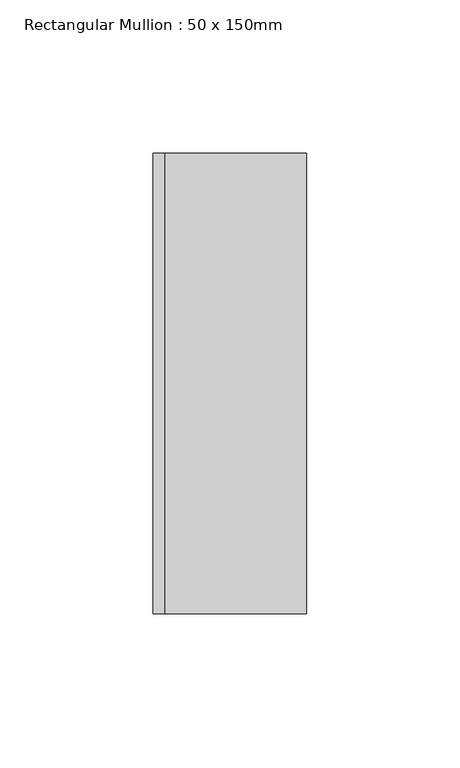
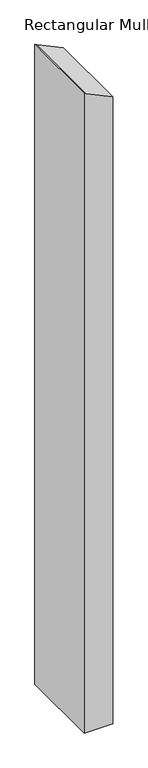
"""IFC4 building model written with IfcOpenShell, lengths in millimetres: member geometry, Rectangular Mullion : 50 x 150mm."""

import ifcopenshell
import ifcopenshell.guid

model = None  # the IFC model being written
_history = None  # IfcOwnerHistory: only IFC2X3 demands one
_inside = {}  # id of a spatial element -> (the spatial element, [elements in it])
_under = {}  # id of a project, library or spatial element -> (it, [spatial elements below it])
_declared = {}  # id of a project -> (the project, [libraries it declares])
_typed = {}  # id of a type object -> (the type object, [elements of that type])
_made_of = {}  # id of a material, layer set ... -> (it, [elements and type objects made of it])


def new_model(schema):
    """Start an empty IFC model of exactly this schema.

    Asked for "IFC4X3", IfcOpenShell would pick the latest addendum, in which some entities
    have other attributes; the version numbers below select the first issue.
    IFC2X3 requires an IfcOwnerHistory on every rooted entity: one is made here for all.
    """
    global model, _history
    if schema == "IFC4X3":
        model = ifcopenshell.file(schema_version=(4, 3, 0, 0))
    else:
        model = ifcopenshell.file(schema=schema)
    _inside.clear()
    _under.clear()
    _declared.clear()
    _typed.clear()
    _made_of.clear()
    _history = None
    if model.schema == "IFC2X3":
        org = make("IfcOrganization", Name="unknown")
        user = make(
            "IfcPersonAndOrganization",
            ThePerson=make("IfcPerson", FamilyName="unknown"),
            TheOrganization=org,
        )
        app = make(
            "IfcApplication",
            ApplicationDeveloper=org,
            Version="unknown",
            ApplicationFullName="unknown",
            ApplicationIdentifier="unknown",
        )
        _history = make(
            "IfcOwnerHistory",
            OwningUser=user,
            OwningApplication=app,
            ChangeAction="ADDED",
            CreationDate=0,
        )
    return model


def make(cls, **values):
    """One entity of the class cls with the attributes given. An attribute that is None is left unset."""
    return model.create_entity(
        cls, **{name: value for name, value in values.items() if value is not None}
    )


def rooted(cls, **values):
    """An entity with a GlobalId (a new one), such as an element, a storey or a relation."""
    return make(cls, GlobalId=ifcopenshell.guid.new(), OwnerHistory=_history, **values)


def si_unit(unit_type, name, prefix=None):
    """IfcSIUnit, for example si_unit("LENGTHUNIT", "METRE", prefix="MILLI")."""
    return make("IfcSIUnit", UnitType=unit_type, Prefix=prefix, Name=name)


def assignment(units):
    """IfcUnitAssignment: the units of a project."""
    return None if units is None else make("IfcUnitAssignment", Units=units)


def point(xyz):
    """IfcCartesianPoint."""
    return None if xyz is None else make("IfcCartesianPoint", Coordinates=xyz)


def direction(xyz):
    """IfcDirection."""
    return None if xyz is None else make("IfcDirection", DirectionRatios=xyz)


def frame(location, z_axis=None, x_axis=None):
    """IfcAxis2Placement3D, a coordinate frame: its origin and axes. An axis left out is left unset."""
    return make(
        "IfcAxis2Placement3D",
        Location=point(location),
        Axis=direction(z_axis),
        RefDirection=direction(x_axis),
    )


def origin():
    """The frame at (0, 0, 0) with its axes left unset."""
    return frame((0.0, 0.0, 0.0))


def place(relative_to, where):
    """IfcLocalPlacement: puts the frame where relative to a parent placement (None: the world)."""
    return make(
        "IfcLocalPlacement", PlacementRelTo=relative_to, RelativePlacement=where
    )


def context(
    kind, dimensions, precision=None, world=None, true_north=None, identifier=None
):
    """IfcGeometricRepresentationContext, for example the 3D "Model" context."""
    return make(
        "IfcGeometricRepresentationContext",
        ContextIdentifier=identifier,
        ContextType=kind,
        CoordinateSpaceDimension=dimensions,
        Precision=precision,
        WorldCoordinateSystem=world,
        TrueNorth=true_north,
    )


def project(units=None, contexts=None):
    """IfcProject with its units and contexts."""
    return rooted(
        "IfcProject",
        Name="project",
        RepresentationContexts=contexts,
        UnitsInContext=assignment(units),
    )


def spatial(cls, under=None, at=None, **own):
    """A site, building, storey or space (cls), placed at a placement, below another one or the project."""
    s = rooted(cls, ObjectPlacement=at, **own)
    if under is not None:
        _under.setdefault(under.id(), (under, []))[1].append(s)
    return s


def polyline(points):
    """IfcPolyline through the points."""
    return make("IfcPolyline", Points=[point(p) for p in points])


def outline(outer, holes=None, kind="AREA"):
    """IfcArbitraryClosedProfileDef: a profile drawn as a closed curve; with holes, ...WithVoids."""
    if holes is None:
        return make("IfcArbitraryClosedProfileDef", ProfileType=kind, OuterCurve=outer)
    return make(
        "IfcArbitraryProfileDefWithVoids",
        ProfileType=kind,
        OuterCurve=outer,
        InnerCurves=holes,
    )


def extrude(swept, where, along, depth):
    """IfcExtrudedAreaSolid: the profile swept, set in the frame where, extruded along a direction by depth."""
    return make(
        "IfcExtrudedAreaSolid",
        SweptArea=swept,
        Position=where,
        ExtrudedDirection=direction(along),
        Depth=depth,
    )


def shape(context_of_items, identifier, shape_type, items):
    """IfcShapeRepresentation: the items that make up one representation, for example the "Body"."""
    return make(
        "IfcShapeRepresentation",
        ContextOfItems=context_of_items,
        RepresentationIdentifier=identifier,
        RepresentationType=shape_type,
        Items=items,
    )


def source(mapping_origin, context_of_items, identifier, shape_type, items):
    """IfcRepresentationMap: a shape defined once, which mapped items show again and again."""
    return make(
        "IfcRepresentationMap",
        MappingOrigin=mapping_origin,
        MappedRepresentation=shape(context_of_items, identifier, shape_type, items),
    )


def transform(
    local_origin,
    x_axis=None,
    y_axis=None,
    z_axis=None,
    scale=None,
    scale2=None,
    scale3=None,
    uniform=True,
):
    """IfcCartesianTransformationOperator3D, or its non-uniform kind. x_axis, y_axis, z_axis: its Axis1, 2, 3."""
    if uniform:
        return make(
            "IfcCartesianTransformationOperator3D",
            Axis1=direction(x_axis),
            Axis2=direction(y_axis),
            LocalOrigin=point(local_origin),
            Scale=scale,
            Axis3=direction(z_axis),
        )
    return make(
        "IfcCartesianTransformationOperator3DnonUniform",
        Axis1=direction(x_axis),
        Axis2=direction(y_axis),
        LocalOrigin=point(local_origin),
        Scale=scale,
        Axis3=direction(z_axis),
        Scale2=scale2,
        Scale3=scale3,
    )


def mapped(mapping_source, mapping_target):
    """IfcMappedItem: shows the shape of a source again, moved by a transform."""
    return make(
        "IfcMappedItem", MappingSource=mapping_source, MappingTarget=mapping_target
    )


def made_of(thing, what):
    """Note that an element or type object is made of a material, layer set ...; save() writes the relation."""
    if what is not None:
        _made_of.setdefault(what.id(), (what, []))[1].append(thing)
    return thing


def element(
    cls,
    number,
    at=None,
    inside=None,
    cuts=None,
    type_object=None,
    material=None,
    context=None,
    identifier="Body",
    shape_type=None,
    held_by="IfcProductDefinitionShape",
    body=None,
    shapes=None,
    **own,
):
    """One element of the class cls, such as IfcWall. Its Tag is "e" and its number.

    at: its placement. inside: the storey or other place that contains it. cuts: it is an
    opening in that element (IfcRelVoidsElement). A single representation is given by context,
    identifier, shape_type and body (its items); several are given by shapes. held_by: the class
    of the entity that holds the representations. save() writes the other relations.
    """
    e = rooted(cls, Tag="e%d" % number, ObjectPlacement=at, **own)
    if body is not None:
        shapes = [shape(context, identifier, shape_type, body)]
    if shapes is not None:
        e.Representation = make(held_by, Representations=shapes)
    if inside is not None:
        _inside.setdefault(inside.id(), (inside, []))[1].append(e)
    if cuts is not None:
        rooted(
            "IfcRelVoidsElement", RelatingBuildingElement=cuts, RelatedOpeningElement=e
        )
    if type_object is not None:
        _typed.setdefault(type_object.id(), (type_object, []))[1].append(e)
    return made_of(e, material)


def aggregate(whole, parts):
    """IfcRelAggregates: a whole, such as a stair, and the parts it consists of."""
    return rooted("IfcRelAggregates", RelatingObject=whole, RelatedObjects=parts)


def save(model, path):
    """Write the relations noted so far, then the file.

    IfcRelAggregates (storeys below a building ...), IfcRelContainedInSpatialStructure (elements
    in a storey), IfcRelDefinesByType, IfcRelAssociatesMaterial and IfcRelDeclares: one each for
    every whole, place, type object, material and project.
    """
    for whole, parts in _under.values():
        aggregate(whole, parts)
    for where, things in _inside.values():
        rooted(
            "IfcRelContainedInSpatialStructure",
            RelatedElements=things,
            RelatingStructure=where,
        )
    for kind, things in _typed.values():
        rooted("IfcRelDefinesByType", RelatedObjects=things, RelatingType=kind)
    for what, things in _made_of.values():
        rooted("IfcRelAssociatesMaterial", RelatedObjects=things, RelatingMaterial=what)
    for by, libraries in _declared.values():
        rooted("IfcRelDeclares", RelatingContext=by, RelatedDefinitions=libraries)
    model.write(path)


def rectangular_mullion_50_x_150mm_67b5af89(model_context):
    return source(origin(), model_context, "Body", "SweptSolid", [
        extrude(outline(polyline([(-66.9797105, 25.0), (-45.3076049, -21.147924), (-43.5205877, -25.0), (-1230.6043133, -25.0), (-1230.6043133, 25.0), (-66.9797105, 25.0)])), frame((0.0, -75.0, 0.0), z_axis=(0.0, 1.0, 0.0), x_axis=(0.0, 0.0, 1.0)), (0.0, 0.0, 1.0), 150.0),
    ])


if __name__ == "__main__":
    model = new_model("IFC4")
    model_context = context("Model", 3, world=origin())
    ifc_project = project(units=[si_unit("LENGTHUNIT", "METRE", prefix="MILLI")], contexts=[model_context])
    site = spatial("IfcSite", under=ifc_project)
    building = spatial("IfcBuilding", under=site)
    placement = place(None, origin())
    rectangular_mullion_50_x_150mm_shape = rectangular_mullion_50_x_150mm_67b5af89(model_context)
    element("IfcMember", 1, ObjectType="Rectangular Mullion : 50 x 150mm", at=placement, inside=building, context=model_context, shape_type="MappedRepresentation", body=[
        mapped(rectangular_mullion_50_x_150mm_shape, transform((0.0, 0.0, 0.0), x_axis=(1.0, 0.0, 0.0), y_axis=(0.0, 1.0, 0.0), z_axis=(0.0, 0.0, 1.0))),
    ])
    save(model, "model.ifc")
